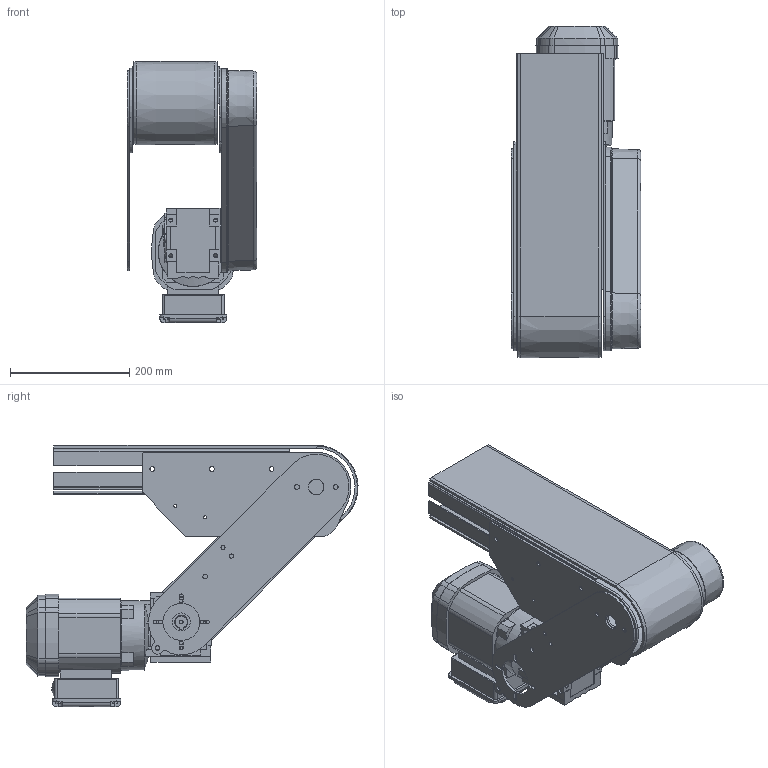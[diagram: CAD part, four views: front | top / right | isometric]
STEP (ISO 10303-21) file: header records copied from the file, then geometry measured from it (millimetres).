
FILE_DESCRIPTION((''),'2;1');
FILE_NAME('C:\Vault Klient\Projekt\Koncept konstruktion\Serie 540 Drivenhet\540-3324V.stp','2010-12-09T10:23:48',('Mathias'),(''),'Autodesk Inventor 2011','Autodesk Inventor 2011','');
FILE_SCHEMA(('AUTOMOTIVE_DESIGN { 1 0 10303 214 1 1 1 1 }'));
Length unit declared in the file: millimetre
Products named in the file (9): 540-3324V; Serie 540 Drivände; 540-1000; 140-2000; 540-3500H; 540-3500V; 900-4030; 500-3120; 900-2260
Assembly tree (9 placements, depth 3):
  540-3324V
    Serie 540 Drivände
      540-1000
      140-2000
      540-3500H
      540-3500V
    900-4030
    500-3120  x2
    900-2260
Bounding box: 217 x 556.74 x 438.07 mm (x, y, z)
Volume: 6428112.7 mm3; surface area: 1409203.2 mm2
Topology: 11 solids, 14 shells, 736 faces, 1968 edges, 1287 vertices
Faces by surface type: plane 438, cylinder 250, cone 20, bspline 16, torus 10, sphere 2
Full cylindrical faces by diameter (mm): 5 x4, 6 x9, 6.6 x8, 6.912 x4, 8 x14, 8.2 x4, 20 x1, 25 x1, 26 x4, 28 x1, 30 x2, 62 x2, 117 x1
Entity records: 22668 total; most frequent: CARTESIAN_POINT 4239, DIRECTION 3692, ORIENTED_EDGE 3614, EDGE_CURVE 1807, VECTOR 1234, LINE 1234, AXIS2_PLACEMENT_3D 1229, VERTEX_POINT 1212
